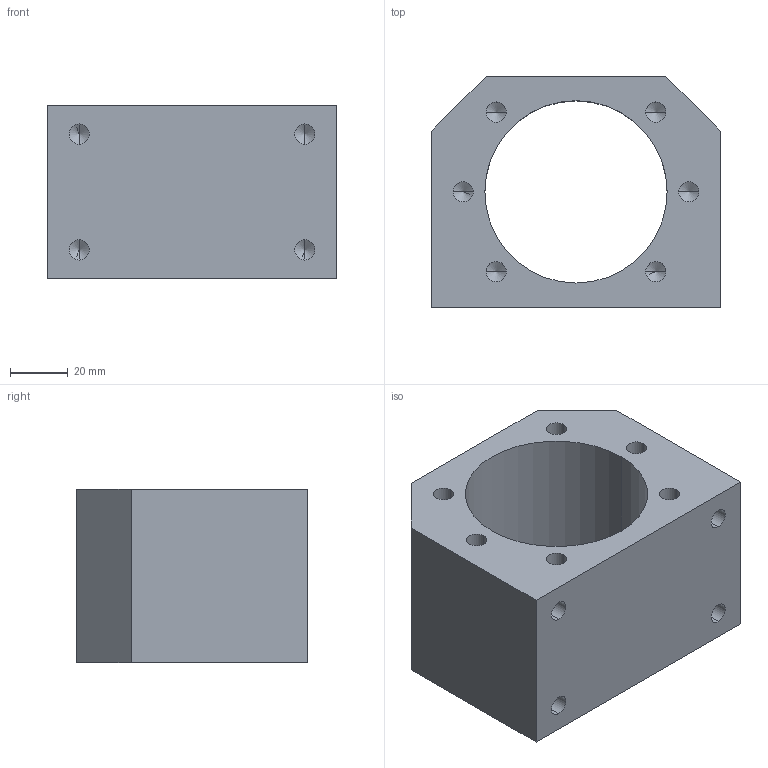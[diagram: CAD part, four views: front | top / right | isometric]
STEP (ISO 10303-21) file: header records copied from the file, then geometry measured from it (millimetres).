
FILE_DESCRIPTION (( 'STEP AP214' ), '1' );
FILE_NAME ('DSG4005-4010.STEP', '2026-08-28T19:09:36', ( '' ), ( '' ), 'SwSTEP 2.0', 'SolidWorks 2019', '' );
FILE_SCHEMA (( 'AUTOMOTIVE_DESIGN' ));
Length unit declared in the file: millimetre
Products named in the file (1): DSG4005-4010
Bounding box: 100 x 80 x 60 mm (x, y, z)
Volume: 264108.3 mm3; surface area: 45205.7 mm2
Topology: 1 solids, 1 shells, 128 faces, 328 edges, 202 vertices
Faces by surface type: plane 61, bspline 25, cylinder 22, cone 20
Entity records: 6708 total; most frequent: CARTESIAN_POINT 2752, ORIENTED_EDGE 616, DIRECTION 510, EDGE_CURVE 308, VECTOR 214, LINE 214, VERTEX_POINT 202, EDGE_LOOP 150
